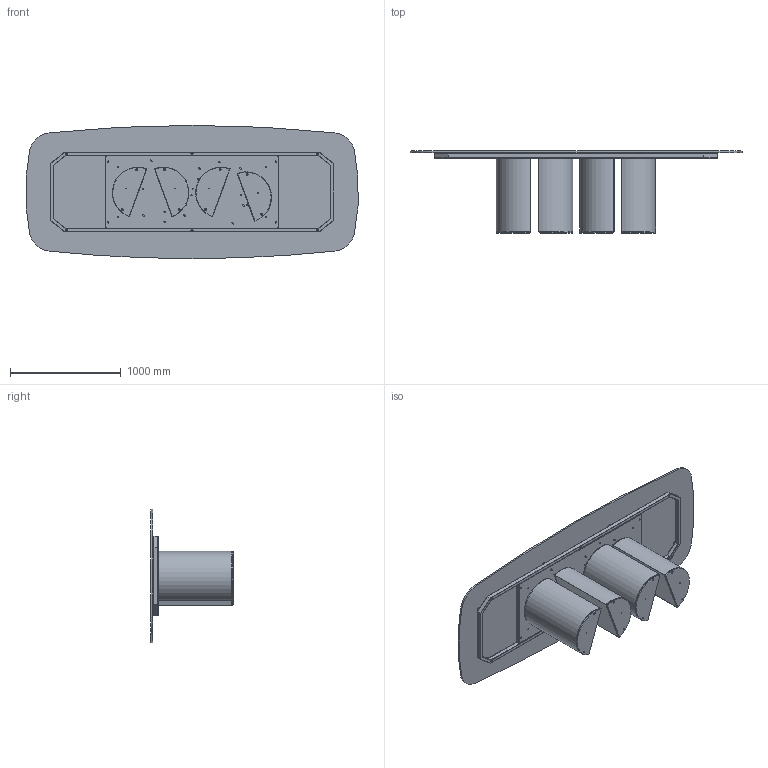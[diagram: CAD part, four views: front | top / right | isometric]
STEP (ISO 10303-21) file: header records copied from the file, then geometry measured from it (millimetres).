
FILE_DESCRIPTION (( 'STEP AP203' ), '1' );
FILE_NAME ('PL44G.STEP', '2024-08-07T13:58:02', ( '' ), ( '' ), 'SwSTEP 2.0', 'SolidWorks 2022', '' );
FILE_SCHEMA (( 'CONFIG_CONTROL_DESIGN' ));
Length unit declared in the file: millimetre
Products named in the file (14): TTAV07_02-01-VASSOIO TELAIO  PLAI ONDA NOA 300; M8xXXmm_hex_M8X20mm; PLA000000BAS-00-PLAI BASE GREZZA; COLLO TELAIO UNIVERSALE TTAV07 CON FERRAMENTA_MTG TOP CRISTALLO VERNICIATO-CERAMICA; M8xXXmm_hex_M8X60mm; 434070-00-PIEDINO TPV GOMMA NERO D. 30x8max18_filo estetico; TTAV07-04-TELAIO X TAVOLI PLAI ONDA NOA 300; TTAV07_01-04-STRUTTURA TAVOLI PLAI ONDA NOA 300; M8xXXmm_M8x20mm; PLA000000ZOC-01-PLAI ZOCCOLO DELLA BASE; rondella M8_8X24; C4XCRXX-00-Piani Sagomati in Cristallo_3000 x 1200; PL44G; Assieme Basamento PLAI_Basamento per tavoli
Assembly tree (37 placements, depth 4):
  PL44G
    COLLO TELAIO UNIVERSALE TTAV07 CON FERRAMENTA_MTG TOP CRISTALLO VERNICIATO-CERAMICA
      TTAV07-04-TELAIO X TAVOLI PLAI ONDA NOA 300
        TTAV07_01-04-STRUTTURA TAVOLI PLAI ONDA NOA 300
        TTAV07_02-01-VASSOIO TELAIO  PLAI ONDA NOA 300
      434070-00-PIEDINO TPV GOMMA NERO D. 30x8max18_filo estetico  x8
    Assieme Basamento PLAI_Basamento per tavoli  x4
      PLA000000BAS-00-PLAI BASE GREZZA
      PLA000000ZOC-01-PLAI ZOCCOLO DELLA BASE
      M8xXXmm_hex_M8X60mm
      M8xXXmm_hex_M8X20mm
    rondella M8_8X24  x8
    M8xXXmm_M8x20mm  x8
    C4XCRXX-00-Piani Sagomati in Cristallo_3000 x 1200
Bounding box: 2991.72 x 739 x 1200 mm (x, y, z)
Volume: 67777900.7 mm3; surface area: 18571414.1 mm2
Topology: 63 solids, 63 shells, 1341 faces, 3039 edges, 1802 vertices
Faces by surface type: plane 568, cylinder 453, cone 160, torus 144, sphere 16
Entity records: 19248 total; most frequent: DIRECTION 3134, CARTESIAN_POINT 2989, ORIENTED_EDGE 2798, EDGE_CURVE 1399, AXIS2_PLACEMENT_3D 1165, VERTEX_POINT 870, LINE 804, VECTOR 804
